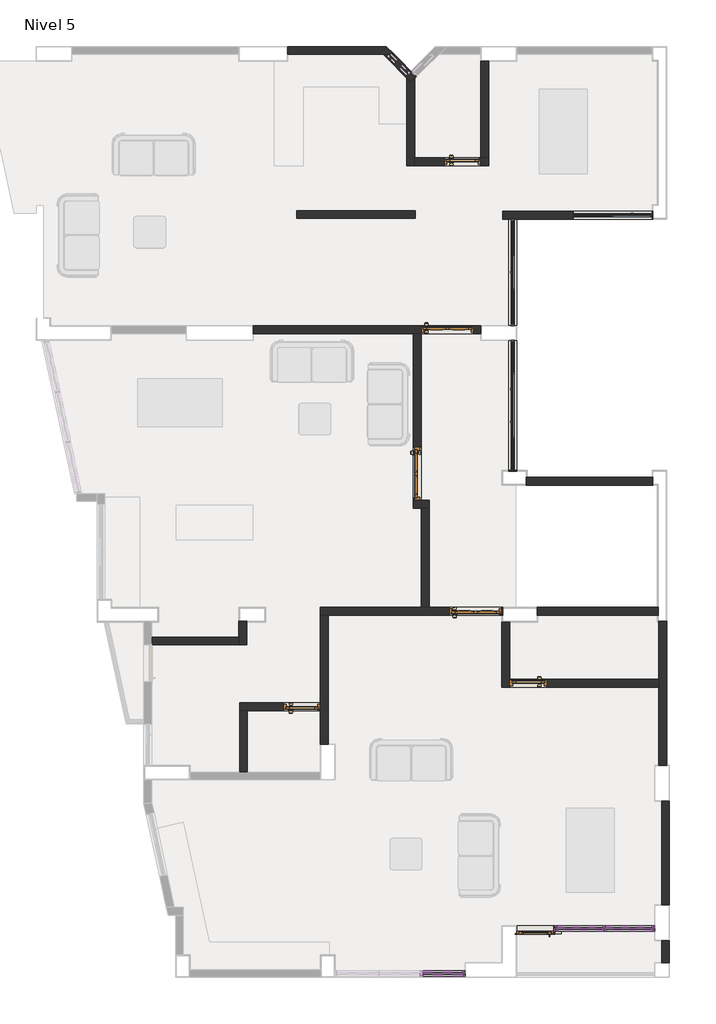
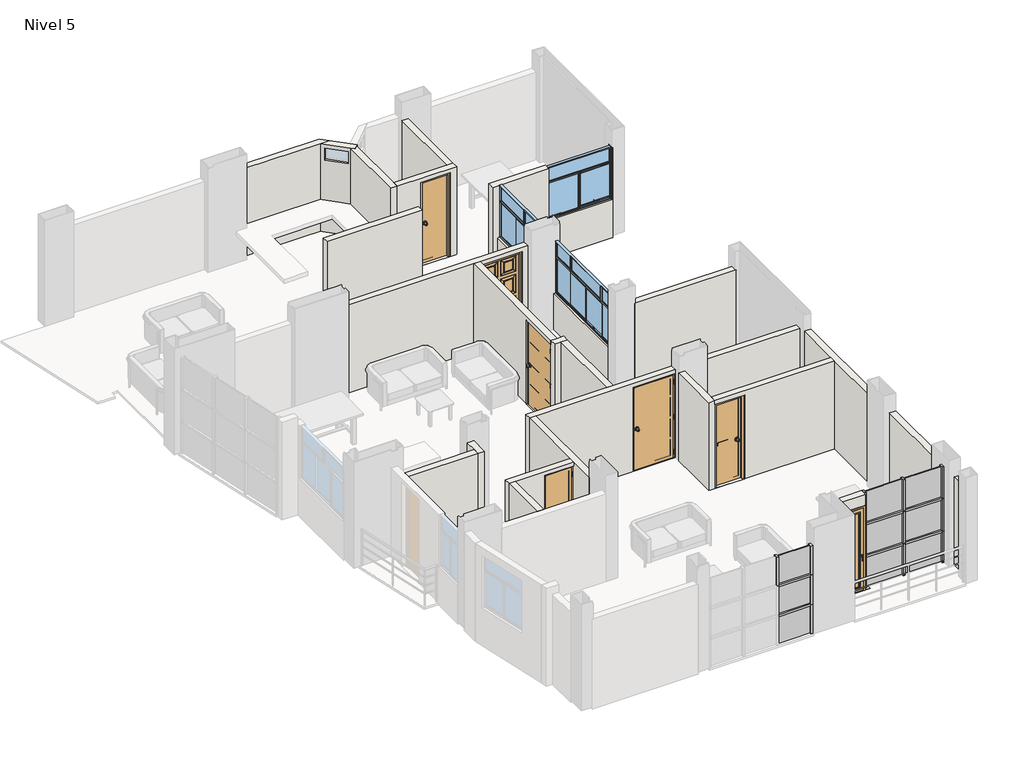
# One storey, part 2 of 4: 27 walls, 19 members, 9 plates, 7 doors, 3 windows.
"""IFC4 building model written with IfcOpenShell, lengths in millimetres."""

from ifc_helpers import new_model, si_unit, frame, origin, place, context, project, spatial, polyline, outline, extrude, faceted_brep, transform, mapped, element, save
from components import door_81789954, door_be1cc8a4, door_cacd1893, door_bb016787, door_609245de, door_bcd09a2d, p_0_70x2_10_m_c1ecacfd, puerta_interior_pi_1_00x2_10_m_83b77251, puerta_interior_pi_1_00x2_10_m_a31ecc94, puerta_interior_pi_1_00x2_10_m_514a608a, puerta_interior_pi_1_00x2_10_m_a5189380, puerta_interior_pi_1_00x2_10_m_4a7fa07f, puerta_interior_pi_1_00x2_10_m_31410703, puerta_interior_pi_1_00x2_10_m_59491bfe, puerta_interior_pi_1_00x2_10_m_50af7067, montante_rectangular_montante_rectangular_5_x_10_cm_2b88942f, montante_rectangular_montante_rectangular_5_x_10_cm_c9eb47b4, montante_rectangular_montante_rectangular_5_x_10_cm_4e511d2b, montante_rectangular_montante_rectangular_5_x_10_cm_c72d6881, montante_rectangular_montante_rectangular_5_x_10_cm_040a528b, montante_rectangular_montante_rectangular_5_x_10_cm_2a6485e1, montante_rectangular_montante_rectangular_5_x_10_cm_c4eb0173, montante_rectangular_montante_rectangular_5_x_10_cm_4f52c7b9, montante_rectangular_montante_rectangular_5_x_10_cm_65fa954f, montante_rectangular_montante_rectangular_5_x_10_cm_f45df562, montante_rectangular_montante_rectangular_5_x_10_cm_cfdf0692, panel_de_sistema_acristalado_9899330d, panel_de_sistema_acristalado_6785d2cd, vb_1_50x1_30_m_f73e4b78, vb_2_02x1_30_m_f14caf41, vb_2_47x1_30_m_5969127e

model = new_model("IFC4")

# Units and contexts
model_context = context("Model", 3, world=origin())
ifc_project = project(units=[si_unit("LENGTHUNIT", "METRE", prefix="MILLI")], contexts=[model_context])

# Site, building, storey
site = spatial("IfcSite", under=ifc_project)
building = spatial("IfcBuilding", under=site)
storey = spatial("IfcBuildingStorey", under=building, Name="Nivel 5", Elevation=10750.0)

# Doors
placement = place(None, origin())
door_shape = door_81789954(model_context)
door_2_shape = door_be1cc8a4(model_context)
door_3_shape = door_cacd1893(model_context)
element("IfcDoor", 1, ObjectType="Puerta contraplacada : Puerta contraplacada 0.7x2.10 m", at=placement, inside=storey, context=model_context, shape_type="MappedRepresentation", body=[
    mapped(door_shape, transform((5435.0, 15475.0, 10750.0), x_axis=(-1.0, 0.0, 0.0), y_axis=(0.0, -1.0, 0.0), z_axis=(0.0, 0.0, 1.0))),
    mapped(door_2_shape, transform((5435.0, 15475.0, 10750.0), x_axis=(-1.0, 0.0, 0.0), y_axis=(0.0, -1.0, 0.0), z_axis=(0.0, 0.0, 1.0))),
    mapped(door_3_shape, transform((5435.0, 15475.0, 10750.0), x_axis=(-1.0, 0.0, 0.0), y_axis=(0.0, -1.0, 0.0), z_axis=(0.0, 0.0, 1.0))),
])
door_4_shape = door_bb016787(model_context)
door_5_shape = door_609245de(model_context)
door_6_shape = door_bcd09a2d(model_context)
element("IfcDoor", 2, ObjectType="Puerta contraplacada : Puerta contraplacada 0.7x2.10 m", at=placement, inside=storey, context=model_context, shape_type="MappedRepresentation", body=[
    mapped(door_4_shape, transform((6685.0, 5575.3626818, 10750.0), x_axis=(1.0, 0.0, 0.0), y_axis=(0.0, 1.0, 0.0), z_axis=(0.0, 0.0, 1.0))),
    mapped(door_5_shape, transform((6685.0, 5575.3626818, 10750.0), x_axis=(1.0, 0.0, 0.0), y_axis=(0.0, 1.0, 0.0), z_axis=(0.0, 0.0, 1.0))),
    mapped(door_6_shape, transform((6685.0, 5575.3626818, 10750.0), x_axis=(1.0, 0.0, 0.0), y_axis=(0.0, 1.0, 0.0), z_axis=(0.0, 0.0, 1.0))),
])
element("IfcDoor", 3, ObjectType="Puerta contraplacada : Puerta contraplacada 0.7x2.10 m", at=placement, inside=storey, context=model_context, shape_type="MappedRepresentation", body=[
    mapped(door_4_shape, transform((2385.0, 5125.3626818, 10750.0), x_axis=(-1.0, 0.0, 0.0), y_axis=(0.0, -1.0, 0.0), z_axis=(0.0, 0.0, 1.0))),
    mapped(door_5_shape, transform((2385.0, 5125.3626818, 10750.0), x_axis=(-1.0, 0.0, 0.0), y_axis=(0.0, -1.0, 0.0), z_axis=(0.0, 0.0, 1.0))),
    mapped(door_6_shape, transform((2385.0, 5125.3626818, 10750.0), x_axis=(-1.0, 0.0, 0.0), y_axis=(0.0, -1.0, 0.0), z_axis=(0.0, 0.0, 1.0))),
])
p_0_70x2_10_m_shape = p_0_70x2_10_m_c1ecacfd(model_context)
element("IfcDoor", 4, ObjectType="Balconera practicable, 1 hoja : P 0.70x2.10 m", at=placement, inside=storey, context=model_context, shape_type="MappedRepresentation", body=[
    mapped(p_0_70x2_10_m_shape, transform((6815.0, 890.0, 10750.0), x_axis=(-1.0, 0.0, 0.0), y_axis=(0.0, -1.0, 0.0), z_axis=(0.0, 0.0, 1.0))),
])
puerta_interior_pi_1_00x2_10_m_shape = puerta_interior_pi_1_00x2_10_m_83b77251(model_context)
puerta_interior_pi_1_00x2_10_m_2_shape = puerta_interior_pi_1_00x2_10_m_a31ecc94(model_context)
puerta_interior_pi_1_00x2_10_m_3_shape = puerta_interior_pi_1_00x2_10_m_514a608a(model_context)
puerta_interior_pi_1_00x2_10_m_4_shape = puerta_interior_pi_1_00x2_10_m_a5189380(model_context)
element("IfcDoor", 5, ObjectType="Puerta Interior : PI_1.00x2.10 m", at=placement, inside=storey, context=model_context, shape_type="MappedRepresentation", body=[
    mapped(puerta_interior_pi_1_00x2_10_m_shape, transform((5149.9926226, 12290.0, 10750.0), x_axis=(-1.0, 0.0, 0.0), y_axis=(0.0, -1.0, 0.0), z_axis=(0.0, 0.0, 1.0))),
    mapped(puerta_interior_pi_1_00x2_10_m_2_shape, transform((5149.9926226, 12290.0, 10750.0), x_axis=(-1.0, 0.0, 0.0), y_axis=(0.0, -1.0, 0.0), z_axis=(0.0, 0.0, 1.0))),
    mapped(puerta_interior_pi_1_00x2_10_m_3_shape, transform((5149.9926226, 12290.0, 10750.0), x_axis=(-1.0, 0.0, 0.0), y_axis=(0.0, -1.0, 0.0), z_axis=(0.0, 0.0, 1.0))),
    mapped(puerta_interior_pi_1_00x2_10_m_4_shape, transform((5149.9926226, 12290.0, 10750.0), x_axis=(-1.0, 0.0, 0.0), y_axis=(0.0, -1.0, 0.0), z_axis=(0.0, 0.0, 1.0))),
])
puerta_interior_pi_1_00x2_10_m_5_shape = puerta_interior_pi_1_00x2_10_m_4a7fa07f(model_context)
puerta_interior_pi_1_00x2_10_m_6_shape = puerta_interior_pi_1_00x2_10_m_31410703(model_context)
puerta_interior_pi_1_00x2_10_m_7_shape = puerta_interior_pi_1_00x2_10_m_59491bfe(model_context)
puerta_interior_pi_1_00x2_10_m_8_shape = puerta_interior_pi_1_00x2_10_m_50af7067(model_context)
element("IfcDoor", 6, ObjectType="Puerta Interior : PI_1.00x2.10 m", at=placement, inside=storey, context=model_context, shape_type="MappedRepresentation", body=[
    mapped(puerta_interior_pi_1_00x2_10_m_5_shape, transform((4574.9926226, 9550.3626818, 10750.0), x_axis=(0.0, 1.0, 0.0), y_axis=(-1.0, 0.0, 0.0), z_axis=(0.0, 0.0, 1.0))),
    mapped(puerta_interior_pi_1_00x2_10_m_6_shape, transform((4574.9926226, 9550.3626818, 10750.0), x_axis=(0.0, 1.0, 0.0), y_axis=(-1.0, 0.0, 0.0), z_axis=(0.0, 0.0, 1.0))),
    mapped(puerta_interior_pi_1_00x2_10_m_7_shape, transform((4574.9926226, 9550.3626818, 10750.0), x_axis=(0.0, 1.0, 0.0), y_axis=(-1.0, 0.0, 0.0), z_axis=(0.0, 0.0, 1.0))),
    mapped(puerta_interior_pi_1_00x2_10_m_8_shape, transform((4574.9926226, 9550.3626818, 10750.0), x_axis=(0.0, 1.0, 0.0), y_axis=(-1.0, 0.0, 0.0), z_axis=(0.0, 0.0, 1.0))),
])
element("IfcDoor", 7, ObjectType="Puerta Interior : PI_1.00x2.10 m", at=placement, inside=storey, context=model_context, shape_type="MappedRepresentation", body=[
    mapped(puerta_interior_pi_1_00x2_10_m_5_shape, transform((5685.0, 6940.0, 10750.0), x_axis=(-1.0, 0.0, 0.0), y_axis=(0.0, -1.0, 0.0), z_axis=(0.0, 0.0, 1.0))),
    mapped(puerta_interior_pi_1_00x2_10_m_6_shape, transform((5685.0, 6940.0, 10750.0), x_axis=(-1.0, 0.0, 0.0), y_axis=(0.0, -1.0, 0.0), z_axis=(0.0, 0.0, 1.0))),
    mapped(puerta_interior_pi_1_00x2_10_m_7_shape, transform((5685.0, 6940.0, 10750.0), x_axis=(-1.0, 0.0, 0.0), y_axis=(0.0, -1.0, 0.0), z_axis=(0.0, 0.0, 1.0))),
    mapped(puerta_interior_pi_1_00x2_10_m_8_shape, transform((5685.0, 6940.0, 10750.0), x_axis=(-1.0, 0.0, 0.0), y_axis=(0.0, -1.0, 0.0), z_axis=(0.0, 0.0, 1.0))),
])

# Members
montante_rectangular_montante_rectangular_5_x_10_cm_shape = montante_rectangular_montante_rectangular_5_x_10_cm_2b88942f(model_context)
element("IfcMember", 8, ObjectType="Montante rectangular : Montante rectangular - 5 x 10 cm", at=placement, inside=storey, context=model_context, shape_type="MappedRepresentation", body=[
    mapped(montante_rectangular_montante_rectangular_5_x_10_cm_shape, transform((4653.3333332, 60.0, 12225.0), x_axis=(1.0, 0.0, 0.0), y_axis=(0.0, -1.0, 0.0), z_axis=(0.0, 0.0, -1.0))),
])
montante_rectangular_montante_rectangular_5_x_10_cm_2_shape = montante_rectangular_montante_rectangular_5_x_10_cm_c9eb47b4(model_context)
element("IfcMember", 9, ObjectType="Montante rectangular : Montante rectangular - 5 x 10 cm", at=placement, inside=storey, context=model_context, shape_type="MappedRepresentation", body=[
    mapped(montante_rectangular_montante_rectangular_5_x_10_cm_2_shape, transform((5485.0, 60.0, 10750.0), x_axis=(1.0, 0.0, 0.0), y_axis=(0.0, -1.0, 0.0), z_axis=(0.0, 0.0, -1.0))),
])
montante_rectangular_montante_rectangular_5_x_10_cm_3_shape = montante_rectangular_montante_rectangular_5_x_10_cm_4e511d2b(model_context)
element("IfcMember", 10, ObjectType="Montante rectangular : Montante rectangular - 5 x 10 cm", at=placement, inside=storey, context=model_context, shape_type="MappedRepresentation", body=[
    mapped(montante_rectangular_montante_rectangular_5_x_10_cm_3_shape, transform((5485.0, 60.0, 11475.0), x_axis=(1.0, 0.0, 0.0), y_axis=(0.0, -1.0, 0.0), z_axis=(0.0, 0.0, -1.0))),
])
element("IfcMember", 11, ObjectType="Montante rectangular : Montante rectangular - 5 x 10 cm", at=placement, inside=storey, context=model_context, shape_type="MappedRepresentation", body=[
    mapped(montante_rectangular_montante_rectangular_5_x_10_cm_2_shape, transform((5485.0, 60.0, 12225.0), x_axis=(1.0, 0.0, 0.0), y_axis=(0.0, -1.0, 0.0), z_axis=(0.0, 0.0, -1.0))),
])
montante_rectangular_montante_rectangular_5_x_10_cm_4_shape = montante_rectangular_montante_rectangular_5_x_10_cm_c72d6881(model_context)
element("IfcMember", 12, ObjectType="Montante rectangular : Montante rectangular - 5 x 10 cm", at=placement, inside=storey, context=model_context, shape_type="MappedRepresentation", body=[
    mapped(montante_rectangular_montante_rectangular_5_x_10_cm_4_shape, transform((5435.0, 60.0, 11475.0), x_axis=(0.0, 0.0, 1.0), y_axis=(0.0, -1.0, 0.0), z_axis=(1.0, 0.0, 0.0))),
])
element("IfcMember", 13, ObjectType="Montante rectangular : Montante rectangular - 5 x 10 cm", at=placement, inside=storey, context=model_context, shape_type="MappedRepresentation", body=[
    mapped(montante_rectangular_montante_rectangular_5_x_10_cm_4_shape, transform((5435.0, 60.0, 12225.0), x_axis=(0.0, 0.0, 1.0), y_axis=(0.0, -1.0, 0.0), z_axis=(1.0, 0.0, 0.0))),
])
montante_rectangular_montante_rectangular_5_x_10_cm_5_shape = montante_rectangular_montante_rectangular_5_x_10_cm_040a528b(model_context)
element("IfcMember", 14, ObjectType="Montante rectangular : Montante rectangular - 5 x 10 cm", at=placement, inside=storey, context=model_context, shape_type="MappedRepresentation", body=[
    mapped(montante_rectangular_montante_rectangular_5_x_10_cm_5_shape, transform((8137.5, 915.0, 10750.0), x_axis=(-1.0, 0.0, 0.0), y_axis=(0.0, 1.0, 0.0), z_axis=(0.0, 0.0, -1.0))),
])
montante_rectangular_montante_rectangular_5_x_10_cm_6_shape = montante_rectangular_montante_rectangular_5_x_10_cm_2a6485e1(model_context)
element("IfcMember", 15, ObjectType="Montante rectangular : Montante rectangular - 5 x 10 cm", at=placement, inside=storey, context=model_context, shape_type="MappedRepresentation", body=[
    mapped(montante_rectangular_montante_rectangular_5_x_10_cm_6_shape, transform((8137.5, 915.0, 11541.6666667), x_axis=(-1.0, 0.0, 0.0), y_axis=(0.0, 1.0, 0.0), z_axis=(0.0, 0.0, -1.0))),
])
element("IfcMember", 16, ObjectType="Montante rectangular : Montante rectangular - 5 x 10 cm", at=placement, inside=storey, context=model_context, shape_type="MappedRepresentation", body=[
    mapped(montante_rectangular_montante_rectangular_5_x_10_cm_5_shape, transform((8137.5, 915.0, 12358.3333333), x_axis=(-1.0, 0.0, 0.0), y_axis=(0.0, 1.0, 0.0), z_axis=(0.0, 0.0, -1.0))),
])
montante_rectangular_montante_rectangular_5_x_10_cm_7_shape = montante_rectangular_montante_rectangular_5_x_10_cm_c4eb0173(model_context)
element("IfcMember", 17, ObjectType="Montante rectangular : Montante rectangular - 5 x 10 cm", at=placement, inside=storey, context=model_context, shape_type="MappedRepresentation", body=[
    mapped(montante_rectangular_montante_rectangular_5_x_10_cm_7_shape, transform((7190.0, 915.0, 10750.0), x_axis=(-1.0, 0.0, 0.0), y_axis=(0.0, 1.0, 0.0), z_axis=(0.0, 0.0, -1.0))),
])
montante_rectangular_montante_rectangular_5_x_10_cm_8_shape = montante_rectangular_montante_rectangular_5_x_10_cm_4f52c7b9(model_context)
element("IfcMember", 18, ObjectType="Montante rectangular : Montante rectangular - 5 x 10 cm", at=placement, inside=storey, context=model_context, shape_type="MappedRepresentation", body=[
    mapped(montante_rectangular_montante_rectangular_5_x_10_cm_8_shape, transform((9085.0, 915.0, 13150.0), x_axis=(1.0, 0.0, 0.0), y_axis=(0.0, 1.0, 0.0), z_axis=(0.0, 0.0, 1.0))),
])
montante_rectangular_montante_rectangular_5_x_10_cm_9_shape = montante_rectangular_montante_rectangular_5_x_10_cm_65fa954f(model_context)
element("IfcMember", 19, ObjectType="Montante rectangular : Montante rectangular - 5 x 10 cm", at=placement, inside=storey, context=model_context, shape_type="MappedRepresentation", body=[
    mapped(montante_rectangular_montante_rectangular_5_x_10_cm_9_shape, transform((7190.0, 915.0, 11541.6666667), x_axis=(-1.0, 0.0, 0.0), y_axis=(0.0, 1.0, 0.0), z_axis=(0.0, 0.0, -1.0))),
])
element("IfcMember", 20, ObjectType="Montante rectangular : Montante rectangular - 5 x 10 cm", at=placement, inside=storey, context=model_context, shape_type="MappedRepresentation", body=[
    mapped(montante_rectangular_montante_rectangular_5_x_10_cm_7_shape, transform((7190.0, 915.0, 12358.3333333), x_axis=(-1.0, 0.0, 0.0), y_axis=(0.0, 1.0, 0.0), z_axis=(0.0, 0.0, -1.0))),
])
element("IfcMember", 21, ObjectType="Montante rectangular : Montante rectangular - 5 x 10 cm", at=placement, inside=storey, context=model_context, shape_type="MappedRepresentation", body=[
    mapped(montante_rectangular_montante_rectangular_5_x_10_cm_8_shape, transform((9085.0, 915.0, 11541.6666667), x_axis=(1.0, 0.0, 0.0), y_axis=(0.0, 1.0, 0.0), z_axis=(0.0, 0.0, 1.0))),
])
montante_rectangular_montante_rectangular_5_x_10_cm_10_shape = montante_rectangular_montante_rectangular_5_x_10_cm_f45df562(model_context)
element("IfcMember", 22, ObjectType="Montante rectangular : Montante rectangular - 5 x 10 cm", at=placement, inside=storey, context=model_context, shape_type="MappedRepresentation", body=[
    mapped(montante_rectangular_montante_rectangular_5_x_10_cm_10_shape, transform((9085.0, 915.0, 12358.3333333), x_axis=(1.0, 0.0, 0.0), y_axis=(0.0, 1.0, 0.0), z_axis=(0.0, 0.0, 1.0))),
])
montante_rectangular_montante_rectangular_5_x_10_cm_11_shape = montante_rectangular_montante_rectangular_5_x_10_cm_cfdf0692(model_context)
element("IfcMember", 23, ObjectType="Montante rectangular : Montante rectangular - 5 x 10 cm", at=placement, inside=storey, context=model_context, shape_type="MappedRepresentation", body=[
    mapped(montante_rectangular_montante_rectangular_5_x_10_cm_11_shape, transform((7240.0, 915.0, 11541.6666667), x_axis=(0.0, 0.0, 1.0), y_axis=(0.0, 1.0, 0.0), z_axis=(-1.0, 0.0, 0.0))),
])
element("IfcMember", 24, ObjectType="Montante rectangular : Montante rectangular - 5 x 10 cm", at=placement, inside=storey, context=model_context, shape_type="MappedRepresentation", body=[
    mapped(montante_rectangular_montante_rectangular_5_x_10_cm_11_shape, transform((7240.0, 915.0, 12358.3333333), x_axis=(0.0, 0.0, 1.0), y_axis=(0.0, 1.0, 0.0), z_axis=(-1.0, 0.0, 0.0))),
])
element("IfcMember", 25, ObjectType="Montante rectangular : Montante rectangular - 5 x 10 cm", at=placement, inside=storey, context=model_context, shape_type="MappedRepresentation", body=[
    mapped(montante_rectangular_montante_rectangular_5_x_10_cm_11_shape, transform((8162.5, 915.0, 11541.6666667), x_axis=(0.0, 0.0, 1.0), y_axis=(0.0, 1.0, 0.0), z_axis=(-1.0, 0.0, 0.0))),
])
element("IfcMember", 26, ObjectType="Montante rectangular : Montante rectangular - 5 x 10 cm", at=placement, inside=storey, context=model_context, shape_type="MappedRepresentation", body=[
    mapped(montante_rectangular_montante_rectangular_5_x_10_cm_11_shape, transform((8162.5, 915.0, 12358.3333333), x_axis=(0.0, 0.0, 1.0), y_axis=(0.0, 1.0, 0.0), z_axis=(-1.0, 0.0, 0.0))),
])

# Plates
panel_de_sistema_acristalado_shape = panel_de_sistema_acristalado_9899330d(model_context)
element("IfcPlate", 27, ObjectType="Panel de sistema : Acristalado", at=placement, inside=storey, context=model_context, shape_type="MappedRepresentation", body=[
    mapped(panel_de_sistema_acristalado_shape, transform((5056.6666666, 60.0, 10750.0), x_axis=(1.0, 0.0, 0.0), y_axis=(0.0, 1.0, 0.0), z_axis=(0.0, 0.0, 1.0))),
])
element("IfcPlate", 28, ObjectType="Panel de sistema : Acristalado", at=placement, inside=storey, context=model_context, shape_type="MappedRepresentation", body=[
    mapped(panel_de_sistema_acristalado_shape, transform((5056.6666666, 60.0, 11500.0), x_axis=(1.0, 0.0, 0.0), y_axis=(0.0, 1.0, 0.0), z_axis=(0.0, 0.0, 1.0))),
])
element("IfcPlate", 29, ObjectType="Panel de sistema : Acristalado", at=placement, inside=storey, context=model_context, shape_type="MappedRepresentation", body=[
    mapped(panel_de_sistema_acristalado_shape, transform((5056.6666666, 60.0, 12250.0), x_axis=(1.0, 0.0, 0.0), y_axis=(0.0, 1.0, 0.0), z_axis=(0.0, 0.0, 1.0))),
])
panel_de_sistema_acristalado_2_shape = panel_de_sistema_acristalado_6785d2cd(model_context)
element("IfcPlate", 30, ObjectType="Panel de sistema : Acristalado", at=placement, inside=storey, context=model_context, shape_type="MappedRepresentation", body=[
    mapped(panel_de_sistema_acristalado_2_shape, transform((8598.75, 915.0, 10750.0), x_axis=(-1.0, 0.0, 0.0), y_axis=(0.0, -1.0, 0.0), z_axis=(0.0, 0.0, 1.0))),
])
element("IfcPlate", 31, ObjectType="Panel de sistema : Acristalado", at=placement, inside=storey, context=model_context, shape_type="MappedRepresentation", body=[
    mapped(panel_de_sistema_acristalado_2_shape, transform((7676.25, 915.0, 10750.0), x_axis=(-1.0, 0.0, 0.0), y_axis=(0.0, -1.0, 0.0), z_axis=(0.0, 0.0, 1.0))),
])
element("IfcPlate", 32, ObjectType="Panel de sistema : Acristalado", at=placement, inside=storey, context=model_context, shape_type="MappedRepresentation", body=[
    mapped(panel_de_sistema_acristalado_2_shape, transform((8598.75, 915.0, 11566.6666667), x_axis=(-1.0, 0.0, 0.0), y_axis=(0.0, -1.0, 0.0), z_axis=(0.0, 0.0, 1.0))),
])
element("IfcPlate", 33, ObjectType="Panel de sistema : Acristalado", at=placement, inside=storey, context=model_context, shape_type="MappedRepresentation", body=[
    mapped(panel_de_sistema_acristalado_2_shape, transform((7676.25, 915.0, 11566.6666667), x_axis=(-1.0, 0.0, 0.0), y_axis=(0.0, -1.0, 0.0), z_axis=(0.0, 0.0, 1.0))),
])
element("IfcPlate", 34, ObjectType="Panel de sistema : Acristalado", at=placement, inside=storey, context=model_context, shape_type="MappedRepresentation", body=[
    mapped(panel_de_sistema_acristalado_2_shape, transform((8598.75, 915.0, 12383.3333333), x_axis=(-1.0, 0.0, 0.0), y_axis=(0.0, -1.0, 0.0), z_axis=(0.0, 0.0, 1.0))),
])
element("IfcPlate", 35, ObjectType="Panel de sistema : Acristalado", at=placement, inside=storey, context=model_context, shape_type="MappedRepresentation", body=[
    mapped(panel_de_sistema_acristalado_2_shape, transform((7676.25, 915.0, 12383.3333333), x_axis=(-1.0, 0.0, 0.0), y_axis=(0.0, -1.0, 0.0), z_axis=(0.0, 0.0, 1.0))),
])

# Walls
element("IfcWall", 36, ObjectType="AMS_Muro Interior-Exterior, e=15 cm", at=placement, inside=storey, context=model_context, shape_type="Brep", body=[
    faceted_brep([(2115.0, 17515.0, 10700.0), (3927.8210981, 17515.0, 10700.0), (4139.9531324, 17515.0, 10700.0), (4139.9531324, 17515.0, 12550.0), (4062.8463512, 17515.0, 12550.0), (4062.8463512, 17515.0, 12850.0), (4139.9531324, 17515.0, 12850.0), (4139.9531324, 17515.0, 12950.0), (3927.8210981, 17515.0, 12950.0), (2115.0, 17515.0, 12950.0), (3989.9531324, 17665.0, 10700.0), (2115.0, 17665.0, 10700.0), (2115.0, 17665.0, 10750.0), (2115.0, 17665.0, 12950.0), (3989.9531324, 17665.0, 12950.0), (4101.3997418, 17553.5533906, 12850.0), (4101.3997418, 17553.5533906, 12550.0)], [[[0, 1, 2, 3, 4, 5, 6, 7, 8, 9]], [[10, 11, 12, 13, 14]], [[2, 1, 0, 11, 10]], [[9, 8, 7, 14, 13]], [[0, 9, 13, 12, 11]], [[2, 10, 14, 7, 6, 15, 16, 3]], [[5, 15, 6]], [[15, 5, 4, 16]], [[16, 4, 3]]]),
])
element("IfcWall", 37, ObjectType="AMS_Muro Interior-Exterior, e=15 cm", at=placement, inside=storey, context=model_context, shape_type="Brep", body=[
    faceted_brep([(3927.8210981, 17515.0, 10700.0), (4379.9531324, 17062.8679656, 10700.0), (4454.9531324, 16987.8679656, 10700.0), (4454.9531324, 16987.8679656, 12950.0), (4379.9531324, 17062.8679656, 12950.0), (3927.8210981, 17515.0, 12950.0), (4348.8871152, 17093.9339828, 12850.0), (4348.8871152, 17093.9339828, 12550.0), (3995.3337246, 17447.4873734, 12550.0), (3995.3337246, 17447.4873734, 12850.0), (4561.0191496, 17093.9339828, 10700.0), (4454.9531324, 17200.0, 10700.0), (4139.9531324, 17515.0, 10700.0), (4139.9531324, 17515.0, 12550.0), (4454.9531324, 17200.0, 12550.0), (4454.9531324, 17200.0, 12850.0), (4139.9531324, 17515.0, 12850.0), (4139.9531324, 17515.0, 12950.0), (4454.9531324, 17200.0, 12950.0), (4561.0191496, 17093.9339828, 12950.0), (4561.0191496, 17093.9339828, 12850.0), (4561.0191496, 17093.9339828, 12550.0), (4529.9531324, 17062.8679656, 10700.0), (4529.9531324, 17062.8679656, 12950.0), (4062.8463512, 17515.0, 12850.0), (4062.8463512, 17515.0, 12550.0)], [[[0, 1, 2, 3, 4, 5], [6, 7, 8, 9]], [[10, 11, 12, 13, 14, 15, 16, 17, 18, 19, 20, 21]], [[2, 1, 0, 12, 11, 10, 22]], [[5, 4, 3, 23, 19, 18, 17]], [[0, 5, 17, 16, 24, 25, 13, 12]], [[3, 2, 22, 10, 21, 20, 19, 23]], [[14, 7, 6, 15]], [[15, 6, 9, 24, 16]], [[24, 9, 8, 25]], [[7, 14, 13, 25, 8]]]),
])
element("IfcWall", 38, ObjectType="AMS_Muro Interior-Interior, e=15 cm", at=placement, inside=storey, context=model_context, shape_type="Brep", body=[
    faceted_brep([(4379.9531324, 17062.8679656, 10700.0), (4379.9531324, 15400.0, 10700.0), (4379.9531324, 15400.0, 12950.0), (4379.9531324, 17062.8679656, 12950.0), (4529.9531324, 17062.8679656, 10700.0), (4529.9531324, 17062.8679656, 12950.0), (4529.9531324, 15550.0, 12950.0), (4529.9531324, 15400.0, 12950.0), (4529.9531324, 15400.0, 10700.0), (4529.9531324, 15550.0, 10700.0), (4454.9531324, 16987.8679656, 10700.0), (4454.9531324, 16987.8679656, 12950.0)], [[[0, 1, 2, 3]], [[4, 5, 6, 7, 8, 9]], [[1, 0, 10, 4, 9, 8]], [[3, 2, 7, 6, 5, 11]], [[0, 3, 11, 10]], [[11, 5, 4, 10]], [[2, 1, 8, 7]]]),
])
element("IfcWall", 39, ObjectType="AMS_Muro Interior-Interior, e=15 cm", at=placement, inside=storey, context=model_context, shape_type="Brep", body=[
    faceted_brep([(4529.9531324, 15400.0, 10700.0), (5935.0, 15400.0, 10700.0), (5935.0, 15400.0, 12950.0), (4529.9531324, 15400.0, 12950.0), (5085.0, 15400.0, 10750.0), (5085.0, 15400.0, 12850.0), (5785.0, 15400.0, 12850.0), (5785.0, 15400.0, 10750.0), (4529.9531324, 15550.0, 10700.0), (4529.9531324, 15550.0, 12950.0), (5785.0, 15550.0, 12950.0), (5935.0, 15550.0, 12950.0), (5935.0, 15550.0, 10700.0), (5785.0, 15550.0, 10700.0), (5085.0, 15550.0, 10750.0), (5785.0, 15550.0, 10750.0), (5785.0, 15550.0, 12850.0), (5085.0, 15550.0, 12850.0)], [[[0, 1, 2, 3], [4, 5, 6, 7]], [[8, 9, 10, 11, 12, 13], [14, 15, 16, 17]], [[1, 0, 8, 13, 12]], [[3, 2, 11, 10, 9]], [[0, 3, 9, 8]], [[2, 1, 12, 11]], [[5, 4, 14, 17]], [[6, 5, 17, 16]], [[7, 6, 16, 15]], [[4, 7, 15, 14]]]),
])
element("IfcWall", 40, ObjectType="AMS_Muro Interior-Interior, e=15 cm", at=placement, inside=storey, context=model_context, shape_type="Brep", body=[
    faceted_brep([(5935.0, 15550.0, 10700.0), (5935.0, 17385.0, 10700.0), (5935.0, 17385.0, 12950.0), (5935.0, 15550.0, 12950.0), (5785.0, 15550.0, 10700.0), (5785.0, 15550.0, 10750.0), (5785.0, 15550.0, 12850.0), (5785.0, 15550.0, 12950.0), (5785.0, 17385.0, 12950.0), (5785.0, 17385.0, 10750.0), (5785.0, 17385.0, 10700.0)], [[[0, 1, 2, 3]], [[4, 5, 6, 7, 8, 9, 10]], [[1, 0, 4, 10]], [[2, 1, 10, 9, 8]], [[3, 2, 8, 7]], [[0, 3, 7, 6, 5, 4]]]),
])
element("IfcWall", 41, ObjectType="AMS_Muro Interior-Interior, e=15 cm", at=placement, inside=storey, context=model_context, shape_type="Brep", body=[
    faceted_brep([(1465.0, 12215.0, 10700.0), (4499.9926226, 12215.0, 10700.0), (4649.9926226, 12215.0, 10700.0), (5785.0, 12215.0, 10700.0), (5785.0, 12215.0, 12950.0), (4649.9926226, 12215.0, 12950.0), (4499.9926226, 12215.0, 12950.0), (1465.0, 12215.0, 12950.0), (4649.9926226, 12215.0, 10750.0), (4649.9926226, 12215.0, 12850.0), (5649.9926226, 12215.0, 12850.0), (5649.9926226, 12215.0, 10750.0), (1465.0, 12365.0, 10700.0), (1465.0, 12365.0, 10750.0), (1465.0, 12365.0, 12950.0), (5785.0, 12365.0, 12950.0), (5785.0, 12365.0, 10750.0), (5785.0, 12365.0, 10700.0), (4649.9926226, 12365.0, 10750.0), (5649.9926226, 12365.0, 10750.0), (5649.9926226, 12365.0, 12850.0), (4649.9926226, 12365.0, 12850.0)], [[[0, 1, 2, 3, 4, 5, 6, 7], [8, 9, 10, 11]], [[12, 13, 14, 15, 16, 17], [18, 19, 20, 21]], [[3, 2, 1, 0, 12, 17]], [[4, 3, 17, 16, 15]], [[7, 6, 5, 4, 15, 14]], [[0, 7, 14, 13, 12]], [[9, 8, 18, 21]], [[10, 9, 21, 20]], [[11, 10, 20, 19]], [[8, 11, 19, 18]]]),
])
element("IfcWall", 42, ObjectType="AMS_Muro Interior-Interior, e=15 cm", at=placement, inside=storey, context=model_context, shape_type="SweptSolid", body=[
    extrude(outline(polyline([(4539.9926226, 14400.3626818), (2289.9926226, 14400.3626818), (2289.9926226, 14550.3626818), (4539.9926226, 14550.3626818), (4539.9926226, 14400.3626818)])), frame((0.0, 0.0, 10700.0), z_axis=(0.0, 0.0, 1.0), x_axis=(1.0, 0.0, 0.0)), (0.0, 0.0, 1.0), 2250.0),
])
element("IfcWall", 43, ObjectType="AMS_Muro Interior-Interior, e=15 cm", at=placement, inside=storey, context=model_context, shape_type="Brep", body=[
    faceted_brep([(7535.0, 14385.0, 11650.0), (7535.0, 14385.0, 12950.0), (6200.0, 14385.0, 12950.0), (6200.0, 14385.0, 10700.0), (6315.0, 14385.0, 10700.0), (6465.0, 14385.0, 10700.0), (9035.0, 14385.0, 10700.0), (9050.0, 14385.0, 10700.0), (9050.0, 14385.0, 10750.0), (9050.0, 14385.0, 12950.0), (9035.0, 14385.0, 12950.0), (9035.0, 14385.0, 11650.0), (6200.0, 14535.0, 12950.0), (7535.0, 14535.0, 12950.0), (7535.0, 14535.0, 11650.0), (9035.0, 14535.0, 11650.0), (9035.0, 14535.0, 12950.0), (9050.0, 14535.0, 12950.0), (9050.0, 14535.0, 10750.0), (9050.0, 14535.0, 10700.0), (9035.0, 14535.0, 10700.0), (6200.0, 14535.0, 10700.0), (9050.0, 14400.0, 10700.0), (9050.0, 14400.0, 12950.0)], [[[0, 1, 2, 3, 4, 5, 6, 7, 8, 9, 10, 11]], [[12, 13, 14, 15, 16, 17, 18, 19, 20, 21]], [[7, 6, 5, 4, 3, 21, 20, 19, 22]], [[9, 8, 7, 22, 19, 18, 17, 23]], [[2, 1, 13, 12]], [[10, 9, 23, 17, 16]], [[3, 2, 12, 21]], [[16, 15, 11, 10]], [[14, 13, 1, 0]], [[15, 14, 0, 11]]]),
])
element("IfcWall", 44, ObjectType="AMS_Muro Interior-Interior, e=15 cm", at=placement, inside=storey, context=model_context, shape_type="Brep", body=[
    faceted_brep([(6465.0, 12365.0, 10700.0), (6465.0, 14385.0, 10700.0), (6465.0, 14385.0, 11650.0), (6465.0, 12365.0, 11650.0), (6465.0, 12365.0, 10750.0), (6315.0, 14385.0, 10700.0), (6315.0, 12365.0, 10700.0), (6315.0, 12365.0, 11650.0), (6315.0, 14385.0, 11650.0)], [[[0, 1, 2, 3, 4]], [[5, 6, 7, 8]], [[1, 0, 6, 5]], [[6, 0, 4, 3, 7]], [[1, 5, 8, 2]], [[3, 2, 8, 7]]]),
])
element("IfcWall", 45, ObjectType="AMS_Muro Interior-Interior, e=15 cm", at=placement, inside=storey, context=model_context, shape_type="Brep", body=[
    faceted_brep([(6315.0, 12085.0, 10700.0), (6315.0, 9615.0, 10700.0), (6315.0, 9600.0, 10700.0), (6315.0, 9600.0, 10750.0), (6315.0, 9600.0, 12950.0), (6315.0, 9615.0, 12950.0), (6315.0, 9615.0, 11650.0), (6315.0, 12085.0, 11650.0), (6465.0, 9600.0, 10700.0), (6465.0, 9615.0, 10700.0), (6465.0, 12085.0, 10700.0), (6465.0, 12085.0, 10750.0), (6465.0, 12085.0, 11650.0), (6465.0, 9615.0, 11650.0), (6465.0, 9615.0, 12950.0), (6465.0, 9600.0, 12950.0), (6465.0, 9600.0, 10750.0)], [[[0, 1, 2, 3, 4, 5, 6, 7]], [[8, 9, 10, 11, 12, 13, 14, 15, 16]], [[2, 1, 0, 10, 9, 8]], [[4, 3, 2, 8, 16, 15]], [[4, 15, 14, 5]], [[10, 0, 7, 12, 11]], [[13, 6, 5, 14]], [[6, 13, 12, 7]]]),
])
element("IfcWall", 46, ObjectType="AMS_Muro Interior-Interior, e=15 cm", at=placement, inside=storey, context=model_context, shape_type="Brep", body=[
    faceted_brep([(4499.9926226, 9050.3626818, 10700.0), (4499.9926226, 9050.3626818, 10750.0), (4499.9926226, 10050.3626818, 10750.0), (4499.9926226, 10050.3626818, 12850.0), (4499.9926226, 9050.3626818, 12850.0), (4499.9926226, 9050.3626818, 12950.0), (4499.9926226, 12215.0, 12950.0), (4499.9926226, 12215.0, 10700.0), (4649.9926226, 10050.3626818, 10750.0), (4649.9926226, 9050.3626818, 10750.0), (4649.9926226, 9050.3626818, 10700.0), (4649.9926226, 12215.0, 10700.0), (4649.9926226, 12215.0, 10750.0), (4649.9926226, 12215.0, 12850.0), (4649.9926226, 12215.0, 12950.0), (4649.9926226, 9050.3626818, 12950.0), (4649.9926226, 9050.3626818, 12850.0), (4649.9926226, 10050.3626818, 12850.0)], [[[0, 1, 2, 3, 4, 5, 6, 7]], [[8, 9, 10, 11, 12, 13, 14, 15, 16, 17]], [[0, 7, 11, 10]], [[6, 5, 15, 14]], [[7, 6, 14, 13, 12, 11]], [[16, 15, 5, 4]], [[10, 9, 1, 0]], [[3, 2, 8, 17]], [[4, 3, 17, 16]], [[2, 1, 9, 8]]]),
])
element("IfcWall", 47, ObjectType="AMS_Muro Interior-Interior, e=15 cm", at=placement, inside=storey, context=model_context, shape_type="Brep", body=[
    faceted_brep([(4499.9926226, 8900.3626818, 10700.0), (4649.9926226, 8900.3626818, 10700.0), (4799.9926226, 8900.3626818, 10700.0), (4799.9926226, 8900.3626818, 12950.0), (4649.9926226, 8900.3626818, 12950.0), (4499.9926226, 8900.3626818, 12950.0), (4499.9926226, 9050.3626818, 10700.0), (4499.9926226, 9050.3626818, 12950.0), (4649.9926226, 9050.3626818, 12950.0), (4799.9926226, 9050.3626818, 12950.0), (4799.9926226, 9050.3626818, 10700.0), (4649.9926226, 9050.3626818, 10700.0)], [[[0, 1, 2, 3, 4, 5]], [[6, 7, 8, 9, 10, 11]], [[2, 1, 0, 6, 11, 10]], [[5, 4, 3, 9, 8, 7]], [[0, 5, 7, 6]], [[3, 2, 10, 9]]]),
])
element("IfcWall", 48, ObjectType="AMS_Muro Interior-Interior, e=15 cm", at=placement, inside=storey, context=model_context, shape_type="SweptSolid", body=[
    extrude(outline(polyline([(4649.9926226, 7015.0), (4649.9926226, 8900.3626818), (4799.9926226, 8900.3626818), (4799.9926226, 7015.0), (4649.9926226, 7015.0)])), frame((0.0, 0.0, 10700.0), z_axis=(0.0, 0.0, 1.0), x_axis=(1.0, 0.0, 0.0)), (0.0, 0.0, 1.0), 2250.0),
])
element("IfcWall", 49, ObjectType="AMS_Muro Interior-Interior, e=15 cm", at=placement, inside=storey, context=model_context, shape_type="Brep", body=[
    faceted_brep([(2735.0, 6865.0, 10700.0), (2885.0, 6865.0, 10700.0), (6185.0, 6865.0, 10700.0), (6200.0, 6865.0, 10700.0), (6200.0, 6865.0, 10750.0), (6200.0, 6865.0, 12950.0), (6185.0, 6865.0, 12950.0), (2885.0, 6865.0, 12950.0), (2735.0, 6865.0, 12950.0), (5185.0, 6865.0, 10750.0), (5185.0, 6865.0, 12850.0), (6185.0, 6865.0, 12850.0), (6185.0, 6865.0, 10750.0), (2735.0, 7015.0, 10700.0), (2735.0, 7015.0, 12950.0), (4649.9926226, 7015.0, 12950.0), (4799.9926226, 7015.0, 12950.0), (6185.0, 7015.0, 12950.0), (6200.0, 7015.0, 12950.0), (6200.0, 7015.0, 10750.0), (6200.0, 7015.0, 10700.0), (6185.0, 7015.0, 10700.0), (4799.9926226, 7015.0, 10700.0), (4649.9926226, 7015.0, 10700.0), (5185.0, 7015.0, 10750.0), (6185.0, 7015.0, 10750.0), (6185.0, 7015.0, 12850.0), (5185.0, 7015.0, 12850.0), (6200.0, 7000.0, 10700.0), (6200.0, 7000.0, 12950.0)], [[[0, 1, 2, 3, 4, 5, 6, 7, 8], [9, 10, 11, 12]], [[13, 14, 15, 16, 17, 18, 19, 20, 21, 22, 23], [24, 25, 26, 27]], [[3, 2, 1, 0, 13, 23, 22, 21, 20, 28]], [[5, 4, 3, 28, 20, 19, 18, 29]], [[8, 7, 6, 5, 29, 18, 17, 16, 15, 14]], [[0, 8, 14, 13]], [[10, 9, 24, 27]], [[11, 10, 27, 26]], [[12, 11, 26, 25]], [[9, 12, 25, 24]]]),
])
element("IfcWall", 50, ObjectType="AMS_Muro Interior-Interior, e=15 cm", at=placement, inside=storey, context=model_context, shape_type="Brep", body=[
    faceted_brep([(2735.0, 6865.0, 10700.0), (2735.0, 5200.3626818, 10700.0), (2735.0, 5050.3626818, 10700.0), (2735.0, 4415.0, 10700.0), (2735.0, 4415.0, 10750.0), (2735.0, 4415.0, 12950.0), (2735.0, 5050.3626818, 12950.0), (2735.0, 5200.3626818, 12950.0), (2735.0, 6865.0, 12950.0), (2885.0, 6865.0, 10700.0), (2885.0, 6865.0, 12950.0), (2885.0, 4415.0, 12950.0), (2885.0, 4415.0, 10700.0)], [[[0, 1, 2, 3, 4, 5, 6, 7, 8]], [[9, 10, 11, 12]], [[3, 2, 1, 0, 9, 12]], [[5, 4, 3, 12, 11]], [[8, 7, 6, 5, 11, 10]], [[0, 8, 10, 9]]]),
])
element("IfcWall", 51, ObjectType="AMS_Muro Interior-Interior, e=15 cm", at=placement, inside=storey, context=model_context, shape_type="Brep", body=[
    faceted_brep([(2035.0, 5200.3626818, 10750.0), (2735.0, 5200.3626818, 10750.0), (2735.0, 5200.3626818, 10700.0), (1200.0, 5200.3626818, 10700.0), (1200.0, 5200.3626818, 12950.0), (2735.0, 5200.3626818, 12950.0), (2735.0, 5200.3626818, 12850.0), (2035.0, 5200.3626818, 12850.0), (2735.0, 5050.3626818, 10700.0), (2735.0, 5050.3626818, 10750.0), (2035.0, 5050.3626818, 10750.0), (2035.0, 5050.3626818, 12850.0), (2735.0, 5050.3626818, 12850.0), (2735.0, 5050.3626818, 12950.0), (1350.0, 5050.3626818, 12950.0), (1200.0, 5050.3626818, 12950.0), (1200.0, 5050.3626818, 10700.0), (1350.0, 5050.3626818, 10700.0)], [[[0, 1, 2, 3, 4, 5, 6, 7]], [[8, 9, 10, 11, 12, 13, 14, 15, 16, 17]], [[3, 2, 8, 17, 16]], [[5, 4, 15, 14, 13]], [[6, 5, 13, 12]], [[2, 1, 9, 8]], [[4, 3, 16, 15]], [[11, 10, 0, 7]], [[12, 11, 7, 6]], [[10, 9, 1, 0]]]),
])
element("IfcWall", 52, ObjectType="AMS_Muro Interior-Interior, e=15 cm", at=placement, inside=storey, context=model_context, shape_type="SweptSolid", body=[
    extrude(outline(polyline([(1200.0, 3885.0), (1200.0, 5050.3626818), (1350.0, 5050.3626818), (1350.0, 3885.0), (1200.0, 3885.0)])), frame((0.0, 0.0, 10700.0), z_axis=(0.0, 0.0, 1.0), x_axis=(1.0, 0.0, 0.0)), (0.0, 0.0, 1.0), 2250.0),
])
element("IfcWall", 53, ObjectType="AMS_Muro Interior-Interior, e=15 cm", at=placement, inside=storey, context=model_context, shape_type="Brep", body=[
    faceted_brep([(1185.0, 6750.0, 10700.0), (1185.0, 6735.0, 10700.0), (1185.0, 6450.3626818, 10700.0), (1185.0, 6300.3626818, 10700.0), (1185.0, 6300.3626818, 12950.0), (1185.0, 6450.3626818, 12950.0), (1185.0, 6735.0, 12950.0), (1185.0, 6750.0, 12950.0), (1185.0, 6750.0, 10750.0), (1335.0, 6750.0, 10700.0), (1335.0, 6750.0, 10750.0), (1335.0, 6750.0, 12950.0), (1335.0, 6735.0, 12950.0), (1335.0, 6300.3626818, 12950.0), (1335.0, 6300.3626818, 10700.0), (1335.0, 6735.0, 10700.0), (1200.0, 6750.0, 10700.0), (1200.0, 6750.0, 12950.0)], [[[0, 1, 2, 3, 4, 5, 6, 7, 8]], [[9, 10, 11, 12, 13, 14, 15]], [[3, 2, 1, 0, 16, 9, 15, 14]], [[7, 6, 5, 4, 13, 12, 11, 17]], [[0, 8, 7, 17, 11, 10, 9, 16]], [[4, 3, 14, 13]]]),
])
element("IfcWall", 54, ObjectType="AMS_Muro Interior-Interior, e=15 cm", at=placement, inside=storey, context=model_context, shape_type="SweptSolid", body=[
    extrude(outline(polyline([(-465.0, 6450.3626818), (1185.0, 6450.3626818), (1185.0, 6300.3626818), (-465.0, 6300.3626818), (-465.0, 6450.3626818)])), frame((0.0, 0.0, 10700.0), z_axis=(0.0, 0.0, 1.0), x_axis=(1.0, 0.0, 0.0)), (0.0, 0.0, 1.0), 2250.0),
])
element("IfcWall", 55, ObjectType="AMS_Muro Interior-Interior, e=15 cm", at=placement, inside=storey, context=model_context, shape_type="Brep", body=[
    faceted_brep([(6850.0, 6865.0, 10700.0), (6865.0, 6865.0, 10700.0), (9135.0, 6865.0, 10700.0), (9150.0, 6865.0, 10700.0), (9150.0, 6865.0, 10750.0), (9150.0, 6865.0, 12950.0), (9135.0, 6865.0, 12950.0), (6865.0, 6865.0, 12950.0), (6850.0, 6865.0, 12950.0), (6850.0, 6865.0, 10750.0), (6850.0, 7015.0, 10700.0), (6850.0, 7015.0, 10750.0), (6850.0, 7015.0, 12950.0), (6865.0, 7015.0, 12950.0), (9135.0, 7015.0, 12950.0), (9150.0, 7015.0, 12950.0), (9150.0, 7015.0, 10750.0), (9150.0, 7015.0, 10700.0), (9135.0, 7015.0, 10700.0), (6865.0, 7015.0, 10700.0), (6850.0, 7000.0, 10700.0), (6850.0, 7000.0, 12950.0)], [[[0, 1, 2, 3, 4, 5, 6, 7, 8, 9]], [[10, 11, 12, 13, 14, 15, 16, 17, 18, 19]], [[3, 2, 1, 0, 20, 10, 19, 18, 17]], [[5, 4, 3, 17, 16, 15]], [[8, 7, 6, 5, 15, 14, 13, 12, 21]], [[0, 9, 8, 21, 12, 11, 10, 20]]]),
])
element("IfcWall", 56, ObjectType="AMS_Muro Interior-Interior, e=15 cm", at=placement, inside=storey, context=model_context, shape_type="Brep", body=[
    faceted_brep([(6185.0, 6735.0, 10700.0), (6185.0, 5500.3626818, 10700.0), (6185.0, 5500.3626818, 12950.0), (6185.0, 6735.0, 12950.0), (6185.0, 6735.0, 10750.0), (6335.0, 6735.0, 10700.0), (6335.0, 6735.0, 12950.0), (6335.0, 5650.3626818, 12950.0), (6335.0, 5500.3626818, 12950.0), (6335.0, 5500.3626818, 10700.0), (6335.0, 5650.3626818, 10700.0)], [[[0, 1, 2, 3, 4]], [[5, 6, 7, 8, 9, 10]], [[1, 0, 5, 10, 9]], [[3, 2, 8, 7, 6]], [[0, 4, 3, 6, 5]], [[2, 1, 9, 8]]]),
])
element("IfcWall", 57, ObjectType="AMS_Muro Interior-Interior, e=15 cm", at=placement, inside=storey, context=model_context, shape_type="SweptSolid", body=[
    extrude(outline(polyline([(10750.0, 7035.0), (10750.0, 6335.0), (10700.0, 6335.0), (10700.0, 9165.0), (12950.0, 9165.0), (12950.0, 6335.0), (12850.0, 6335.0), (12850.0, 7035.0), (10750.0, 7035.0)])), frame((0.0, 5500.3626818, 0.0), z_axis=(0.0, 1.0, 0.0), x_axis=(0.0, 0.0, 1.0)), (0.0, 0.0, 1.0), 150.0),
])
element("IfcWall", 58, ObjectType="AMS_Muro Interior-Exterior, e=15 cm", at=placement, inside=storey, context=model_context, shape_type="Brep", body=[
    faceted_brep([(9165.0, 6750.0, 10700.0), (9165.0, 6735.0, 10700.0), (9165.0, 5650.3626818, 10700.0), (9165.0, 5500.3626818, 10700.0), (9165.0, 4015.0, 10700.0), (9165.0, 4015.0, 12950.0), (9165.0, 5500.3626818, 12950.0), (9165.0, 5650.3626818, 12950.0), (9165.0, 6735.0, 12950.0), (9165.0, 6750.0, 12950.0), (9165.0, 6750.0, 10750.0), (9315.0, 6750.0, 10700.0), (9315.0, 6750.0, 10750.0), (9315.0, 6750.0, 12950.0), (9315.0, 6735.0, 12950.0), (9315.0, 4015.0, 12950.0), (9315.0, 4015.0, 10700.0), (9315.0, 6735.0, 10700.0), (9300.0, 6750.0, 10700.0), (9300.0, 6750.0, 12950.0)], [[[0, 1, 2, 3, 4, 5, 6, 7, 8, 9, 10]], [[11, 12, 13, 14, 15, 16, 17]], [[4, 3, 2, 1, 0, 18, 11, 17, 16]], [[5, 4, 16, 15]], [[9, 8, 7, 6, 5, 15, 14, 13, 19]], [[0, 10, 9, 19, 13, 12, 11, 18]]]),
])
element("IfcWall", 59, ObjectType="AMS_Muro Interior-Interior, e=15 cm", at=placement, inside=storey, context=model_context, shape_type="Brep", body=[
    faceted_brep([(6650.0, 9335.0, 10700.0), (6665.0, 9335.0, 10700.0), (9035.0, 9335.0, 10700.0), (9050.0, 9335.0, 10700.0), (9050.0, 9335.0, 10750.0), (9050.0, 9335.0, 12950.0), (9035.0, 9335.0, 12950.0), (6665.0, 9335.0, 12950.0), (6650.0, 9335.0, 12950.0), (6650.0, 9335.0, 10750.0), (6650.0, 9485.0, 10700.0), (6650.0, 9485.0, 10750.0), (6650.0, 9485.0, 12950.0), (6665.0, 9485.0, 12950.0), (9035.0, 9485.0, 12950.0), (9050.0, 9485.0, 12950.0), (9050.0, 9485.0, 10750.0), (9050.0, 9485.0, 10700.0), (9035.0, 9485.0, 10700.0), (6665.0, 9485.0, 10700.0), (6650.0, 9350.0, 10700.0), (9050.0, 9350.0, 10700.0), (9050.0, 9350.0, 12950.0), (6650.0, 9350.0, 12950.0)], [[[0, 1, 2, 3, 4, 5, 6, 7, 8, 9]], [[10, 11, 12, 13, 14, 15, 16, 17, 18, 19]], [[3, 2, 1, 0, 20, 10, 19, 18, 17, 21]], [[5, 4, 3, 21, 17, 16, 15, 22]], [[8, 7, 6, 5, 22, 15, 14, 13, 12, 23]], [[0, 9, 8, 23, 12, 11, 10, 20]]]),
])
element("IfcWall", 60, ObjectType="AMS_Muro Interior-Exterior, e=15 cm", at=placement, inside=storey, context=model_context, shape_type="Brep", body=[
    faceted_brep([(9365.0, 1365.0, 10700.0), (9365.0, 3335.0, 10700.0), (9365.0, 3335.0, 10750.0), (9365.0, 3335.0, 12950.0), (9365.0, 1365.0, 12950.0), (9365.0, 1365.0, 10750.0), (9215.0, 1365.0, 10700.0), (9215.0, 1365.0, 12950.0), (9215.0, 3335.0, 12950.0), (9215.0, 3335.0, 10700.0)], [[[0, 1, 2, 3, 4, 5]], [[6, 7, 8, 9]], [[1, 0, 6, 9]], [[3, 2, 1, 9, 8]], [[4, 3, 8, 7]], [[0, 5, 4, 7, 6]]]),
])
element("IfcWall", 61, ObjectType="AMS_Muro Interior-Exterior, e=15 cm", at=placement, inside=storey, context=model_context, shape_type="Brep", body=[
    faceted_brep([(9215.0, 685.0, 10700.0), (9215.0, 265.0, 10700.0), (9215.0, 265.0, 12950.0), (9215.0, 685.0, 12950.0), (9365.0, 685.0, 10700.0), (9365.0, 685.0, 10750.0), (9365.0, 685.0, 12950.0), (9365.0, 265.0, 12950.0), (9365.0, 265.0, 10750.0), (9365.0, 265.0, 10700.0)], [[[0, 1, 2, 3]], [[4, 5, 6, 7, 8, 9]], [[1, 0, 4, 9]], [[2, 1, 9, 8, 7]], [[3, 2, 7, 6]], [[0, 3, 6, 5, 4]]]),
])
element("IfcWall", 62, ObjectType="AMS_Muro Interior-Interior, e=15 cm", at=placement, inside=storey, context=model_context, shape_type="SweptSolid", body=[
    extrude(outline(polyline([(10700.0, 6465.0), (10700.0, 7310.0), (10750.0, 7310.0), (10750.0, 7190.0), (13150.0, 7190.0), (13150.0, 6465.0), (12850.0, 6465.0), (12850.0, 7165.0), (10750.0, 7165.0), (10750.0, 6465.0), (10700.0, 6465.0)])), frame((0.0, 815.0, 0.0), z_axis=(0.0, 1.0, 0.0), x_axis=(0.0, 0.0, 1.0)), (0.0, 0.0, 1.0), 150.0),
])

# Windows
vb_1_50x1_30_m_shape = vb_1_50x1_30_m_f73e4b78(model_context)
element("IfcWindow", 63, ObjectType="Ventana baja corrediza 2 cuerpos : VB 1.50X1.30 m", at=placement, inside=storey, context=model_context, shape_type="MappedRepresentation", body=[
    mapped(vb_1_50x1_30_m_shape, transform((8285.0, 14460.0, 10750.0), x_axis=(-1.0, 0.0, 0.0), y_axis=(0.0, -1.0, 0.0), z_axis=(0.0, 0.0, 1.0))),
])
vb_2_02x1_30_m_shape = vb_2_02x1_30_m_f14caf41(model_context)
element("IfcWindow", 64, ObjectType="Ventana baja corrediza 3 cuerpos : VB 2.02x1.30 m", at=placement, inside=storey, context=model_context, shape_type="MappedRepresentation", body=[
    mapped(vb_2_02x1_30_m_shape, transform((6390.0, 13375.0, 10750.0), x_axis=(0.0, 1.0, 0.0), y_axis=(-1.0, 0.0, 0.0), z_axis=(0.0, 0.0, 1.0))),
])
vb_2_47x1_30_m_shape = vb_2_47x1_30_m_5969127e(model_context)
element("IfcWindow", 65, ObjectType="Ventana baja corrediza 4 cuerpos : VB 2.47x1.30 m", at=placement, inside=storey, context=model_context, shape_type="MappedRepresentation", body=[
    mapped(vb_2_47x1_30_m_shape, transform((6390.0, 10850.0, 10750.0), x_axis=(0.0, -1.0, 0.0), y_axis=(1.0, 0.0, 0.0), z_axis=(0.0, 0.0, 1.0))),
])

save(model, "model.ifc")
